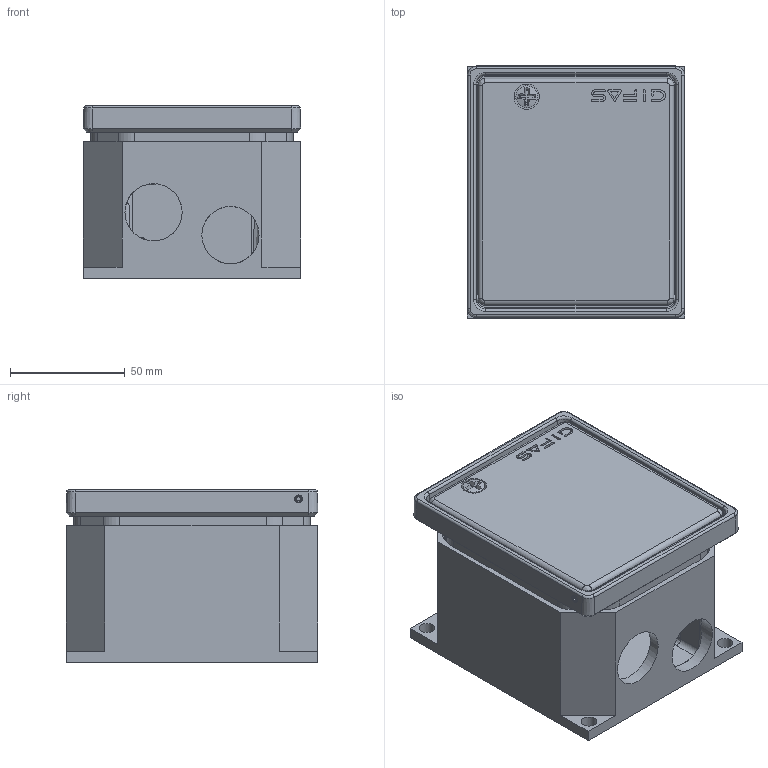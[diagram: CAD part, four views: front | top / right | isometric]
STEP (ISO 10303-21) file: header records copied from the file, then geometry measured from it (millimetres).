
FILE_DESCRIPTION(/* description */ (''),/* implementation_level */ '2;1');
FILE_NAME(/* name */ 'Fonto 2000_Close.stp',/* time_stamp */ '2023-10-25T11:47:54+02:00',/* author */ ('stangass'),/* organization */ (''),/* preprocessor_version */ 'ST-DEVELOPER v19.2',/* originating_system */ 'Autodesk Inventor 2023',/* authorisation */ '');
FILE_SCHEMA (('AUTOMOTIVE_DESIGN { 1 0 10303 214 3 1 1 }'));
Products named in the file (19): 2040268_3DINV; 2039966_3DINV; 2039967_3DINV; 2040286_3DINV; 2039968_3DINV; 2040229_3DINV; 2040279_3DINV; 2040276_3DINV; 2040277_3DINV; ISO 8752 - 3 x 16; 2040117_3DINV; 2040270_3DINV; DIN 912 - M5 x 25; DIN 6799 - 5; DIN 912 - M5 x 8; #61302; DIN 127 - A 5; DIN 125 - A 5,3; 2040278_3DINV
Assembly tree (32 placements, depth 2):
  2040268_3DINV
    2039966_3DINV
    2039967_3DINV
    2040286_3DINV
    ISO 8752 - 3 x 16  x2
    2039968_3DINV
    2040229_3DINV
    2040279_3DINV
    2040276_3DINV
    2040277_3DINV
    2040117_3DINV
    2040270_3DINV
    DIN 912 - M5 x 8  x4
    DIN 912 - M5 x 25  x4
    DIN 6799 - 5  x4
    #61302  x3
    DIN 127 - A 5  x2
    DIN 125 - A 5,3  x2
    2040278_3DINV
Bounding box: 95 x 110 x 75.69 mm (x, y, z)
Volume: 298642.9 mm3; surface area: 151514.4 mm2
Topology: 32 solids, 32 shells, 1539 faces, 3862 edges, 2416 vertices
Faces by surface type: plane 742, cylinder 440, bspline 193, cone 98, torus 61, sphere 5
Full cylindrical faces by diameter (mm): 2.5 x8, 3 x2, 3.5 x2, 3.683 x3, 3.708 x3, 4.17 x6, 4.2 x8, 4.372 x1, 4.521 x3, 4.629 x1, 5 x10, 5.156 x1, 5.2 x4, 5.207 x3, 5.3 x2, 6.35 x1, 6.5 x2, 6.8 x4, 8.5 x8, 9 x4, 9.525 x2, 10 x2, 10.414 x1, 11 x1, 11.8 x1, 11.811 x1, 25 x2
Entity records: 61177 total; most frequent: CARTESIAN_POINT 28885, ORIENTED_EDGE 6474, DIRECTION 6332, EDGE_CURVE 3237, AXIS2_PLACEMENT_3D 2287, VERTEX_POINT 2030, LINE 1758, VECTOR 1758
